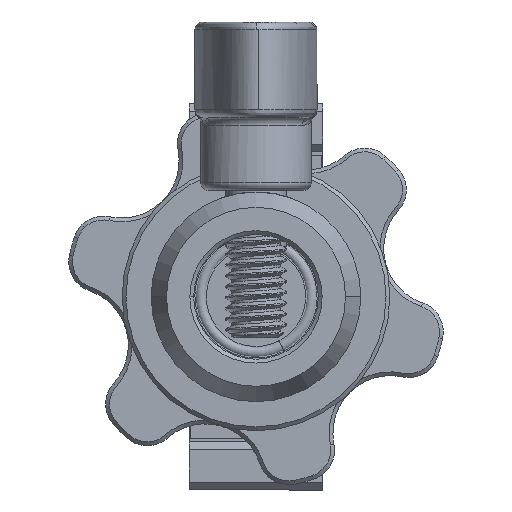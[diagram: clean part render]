
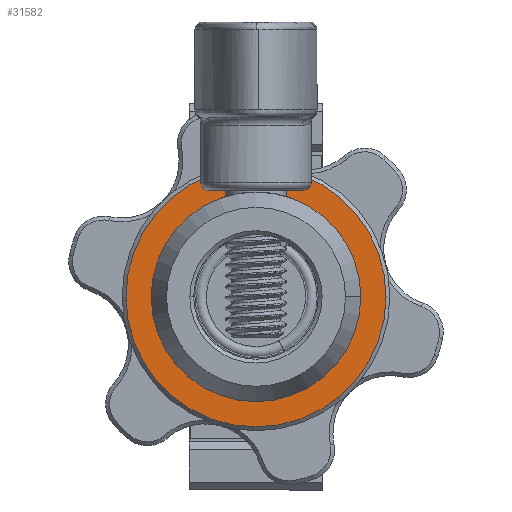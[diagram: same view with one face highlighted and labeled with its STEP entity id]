
A CAD part, front view. The second image highlights one B-rep face of the part: STEP entity #31582.
In plain terms, the highlighted planar face has unit normal (0, -1, 0).
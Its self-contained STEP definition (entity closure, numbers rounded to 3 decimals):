
#586 = AXIS2_PLACEMENT_3D ( 'NONE', #835, #31579, #12203 ) ;
#835 = CARTESIAN_POINT ( 'NONE',  ( 0., 75., 0. ) ) ;
#2942 = CARTESIAN_POINT ( 'NONE',  ( 13.7, 75., 0. ) ) ;
#3651 = AXIS2_PLACEMENT_3D ( 'NONE', #24197, #18575, #24315 ) ;
#4699 = DIRECTION ( 'NONE',  ( 0., 1., 0. ) ) ;
#4817 = CARTESIAN_POINT ( 'NONE',  ( 0., 75., -17. ) ) ;
#5672 = EDGE_CURVE ( 'NONE', #7348, #26461, #32163, .T. ) ;
#6119 = ORIENTED_EDGE ( 'NONE', *, *, #5672, .T. ) ;
#7348 = VERTEX_POINT ( 'NONE', #29308 ) ;
#8151 = DIRECTION ( 'NONE',  ( 0., -1., 0. ) ) ;
#8363 = FACE_OUTER_BOUND ( 'NONE', #19528, .T. ) ;
#8763 = ORIENTED_EDGE ( 'NONE', *, *, #26932, .T. ) ;
#9136 = AXIS2_PLACEMENT_3D ( 'NONE', #21400, #4699, #15317 ) ;
#9276 = VERTEX_POINT ( 'NONE', #2942 ) ;
#10436 = DIRECTION ( 'NONE',  ( 0., -1., 0. ) ) ;
#11318 = ORIENTED_EDGE ( 'NONE', *, *, #31511, .T. ) ;
#12203 = DIRECTION ( 'NONE',  ( 0., 0., -1. ) ) ;
#15317 = DIRECTION ( 'NONE',  ( 0., 0., -1. ) ) ;
#16383 = CARTESIAN_POINT ( 'NONE',  ( -13.7, 75., 0. ) ) ;
#17101 = ORIENTED_EDGE ( 'NONE', *, *, #31925, .T. ) ;
#17564 = CARTESIAN_POINT ( 'NONE',  ( 0., 75., -17. ) ) ;
#18575 = DIRECTION ( 'NONE',  ( 0., 1., 0. ) ) ;
#18981 = AXIS2_PLACEMENT_3D ( 'NONE', #32889, #8151, #27662 ) ;
#19528 = EDGE_LOOP ( 'NONE', ( #6119, #17101 ) ) ;
#21400 = CARTESIAN_POINT ( 'NONE',  ( 0., 75., 0. ) ) ;
#23061 = VERTEX_POINT ( 'NONE', #16383 ) ;
#24197 = CARTESIAN_POINT ( 'NONE',  ( 0., 75., 0. ) ) ;
#24315 = DIRECTION ( 'NONE',  ( 0., 0., -1. ) ) ;
#26461 = VERTEX_POINT ( 'NONE', #17564 ) ;
#26862 = PLANE ( 'NONE',  #32357 ) ;
#26932 = EDGE_CURVE ( 'NONE', #9276, #23061, #29429, .T. ) ;
#27662 = DIRECTION ( 'NONE',  ( 0., 0., -1. ) ) ;
#28825 = CIRCLE ( 'NONE', #586, 17. ) ;
#29308 = CARTESIAN_POINT ( 'NONE',  ( 0., 75., 17. ) ) ;
#29429 = CIRCLE ( 'NONE', #9136, 13.7 ) ;
#30598 = CIRCLE ( 'NONE', #3651, 13.7 ) ;
#31511 = EDGE_CURVE ( 'NONE', #23061, #9276, #30598, .T. ) ;
#31579 = DIRECTION ( 'NONE',  ( 0., -1., 0. ) ) ;
#31582 = ADVANCED_FACE ( 'NONE', ( #33222, #8363 ), #26862, .T. ) ;
#31925 = EDGE_CURVE ( 'NONE', #26461, #7348, #28825, .T. ) ;
#32163 = CIRCLE ( 'NONE', #18981, 17. ) ;
#32357 = AXIS2_PLACEMENT_3D ( 'NONE', #4817, #10436, #32724 ) ;
#32724 = DIRECTION ( 'NONE',  ( 0., 0., -1. ) ) ;
#32889 = CARTESIAN_POINT ( 'NONE',  ( 0., 75., 0. ) ) ;
#33222 = FACE_BOUND ( 'NONE', #33423, .T. ) ;
#33423 = EDGE_LOOP ( 'NONE', ( #8763, #11318 ) ) ;
